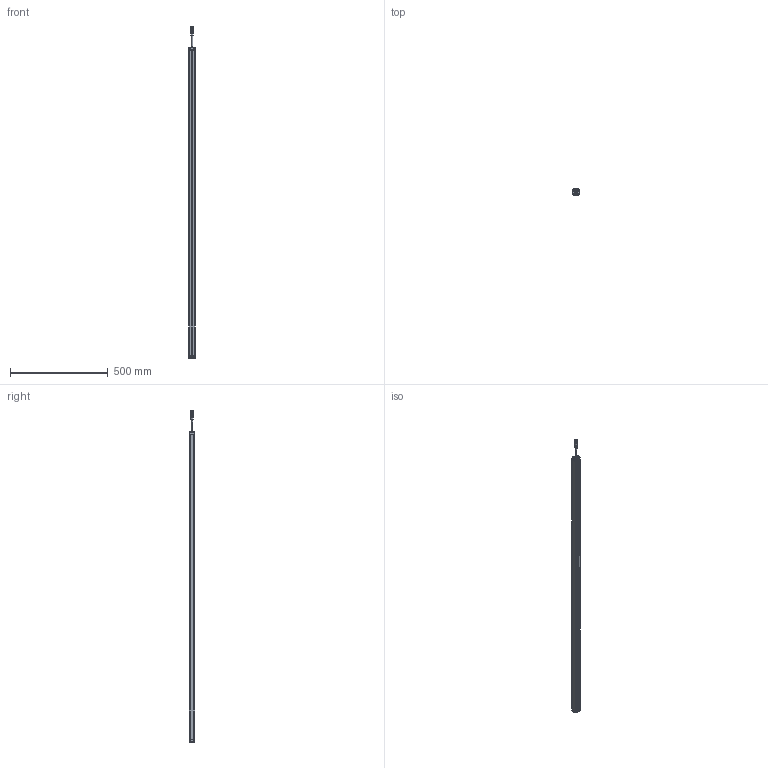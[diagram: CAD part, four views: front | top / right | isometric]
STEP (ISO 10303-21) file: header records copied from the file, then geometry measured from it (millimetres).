
FILE_DESCRIPTION((''),'2;1');
FILE_NAME('SMT1-CGQ_ASM','2025-08-08T08:49:28',('Administrator'),(''),'CREO PARAMETRIC BY PTC INC, 2016510','CREO PARAMETRIC BY PTC INC, 2016510','');
FILE_SCHEMA(('CONFIG_CONTROL_DESIGN'));
Length unit declared in the file: millimetre
Products named in the file (7): SMT1-XINGCAI-V1; SMT1-SDG-V1; SMT1-XDG-V1; M12-CHATOU; ST3X18; CT4-LVGUANGBAN; SMT1-CGQ_ASM
Assembly tree (13 placements, depth 2):
  SMT1-CGQ_ASM
    SMT1-XINGCAI-V1
    SMT1-SDG-V1
    SMT1-XDG-V1
    M12-CHATOU
    ST3X18  x8
    CT4-LVGUANGBAN
Bounding box: 33 x 28.02 x 1699.5 mm (x, y, z)
Volume: 1228516.4 mm3; surface area: 392648.6 mm2
Topology: 13 solids, 13 shells, 712 faces, 1868 edges, 1200 vertices
Faces by surface type: plane 382, cylinder 184, extrusion 86, sphere 32, cone 20, bspline 8
Entity records: 18128 total; most frequent: CARTESIAN_POINT 4347, ORIENTED_EDGE 2916, DIRECTION 2580, EDGE_CURVE 1458, VECTOR 1036, VERTEX_POINT 955, LINE 950, AXIS2_PLACEMENT_3D 772
